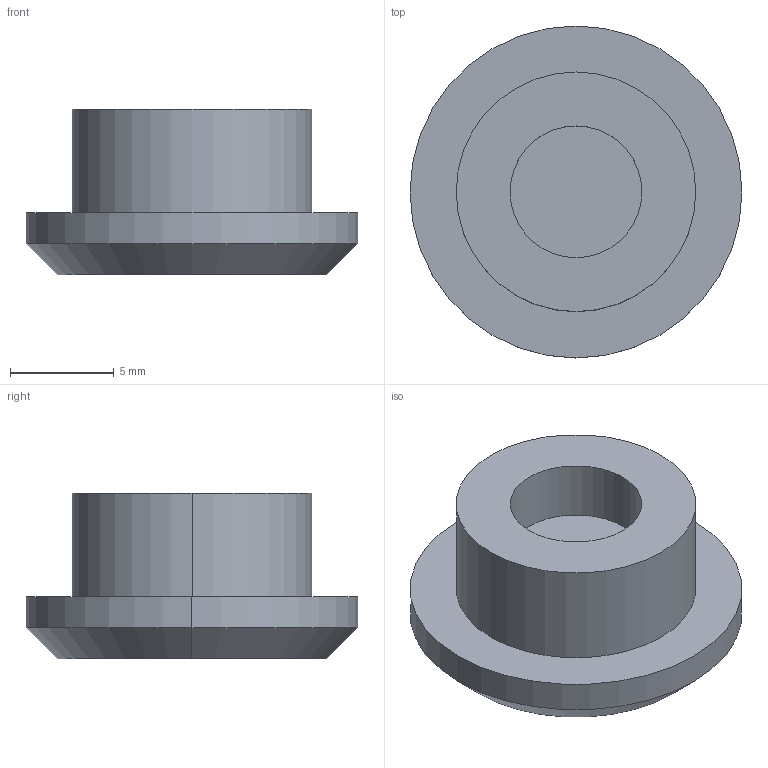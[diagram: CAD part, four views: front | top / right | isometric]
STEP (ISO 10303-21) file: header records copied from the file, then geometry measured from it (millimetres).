
FILE_DESCRIPTION (( 'STEP AP214' ), '1' );
FILE_NAME ('End Cap 2.STEP', '2023-07-31T21:31:49', ( '' ), ( '' ), 'SwSTEP 2.0', 'SolidWorks 2021', '' );
FILE_SCHEMA (( 'AUTOMOTIVE_DESIGN' ));
Length unit declared in the file: millimetre
Products named in the file (1): End Cap 2
Bounding box: 16 x 16 x 8 mm (x, y, z)
Volume: 982.2 mm3; surface area: 745.1 mm2
Topology: 1 solids, 1 shells, 12 faces, 22 edges, 14 vertices
Faces by surface type: cylinder 6, plane 4, cone 2
Entity records: 338 total; most frequent: DIRECTION 62, CARTESIAN_POINT 49, ORIENTED_EDGE 44, AXIS2_PLACEMENT_3D 27, EDGE_CURVE 22, VERTEX_POINT 14, CIRCLE 14, EDGE_LOOP 14
